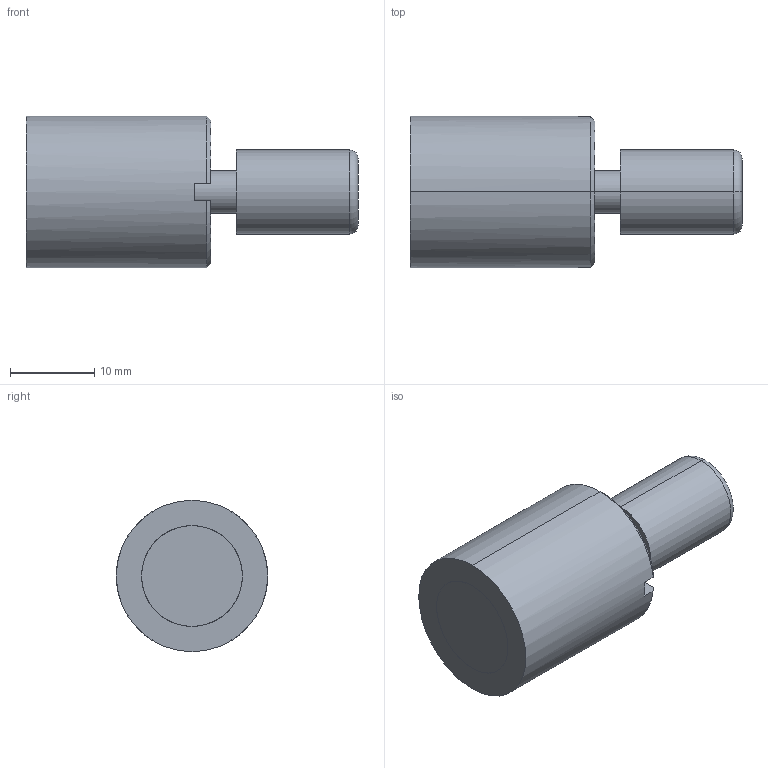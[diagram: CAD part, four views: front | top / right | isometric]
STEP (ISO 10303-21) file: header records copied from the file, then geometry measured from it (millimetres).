
FILE_DESCRIPTION(('CATIA V5 STEP Exchange'),'2;1');
FILE_NAME('C:\Users\Utente\Desktop\IO LAVORO\3D X SITO CF\X SITO\PLASTICA\CF-VPA\CF-VPA18.stp','2021-03-20T16:39:27+00:00',('none'),('none'),'CATIA Version 5 Release 20 GA (IN-10)','CATIA V5 STEP AP203','none');
FILE_SCHEMA(('CONFIG_CONTROL_DESIGN'));
Length unit declared in the file: millimetre
Products named in the file (1): CF-VPA18
Assembly tree (2 placements, depth 2):
  CF-VPA18
    #58
    #769
Bounding box: 39.5 x 18 x 18 mm (x, y, z)
Volume: 6593.3 mm3; surface area: 3291.1 mm2
Topology: 2 solids, 2 shells, 30 faces, 88 edges, 62 vertices
Faces by surface type: plane 12, cone 8, cylinder 8, torus 2
Entity records: 1149 total; most frequent: CARTESIAN_POINT 276, ORIENTED_EDGE 176, DIRECTION 144, EDGE_CURVE 88, AXIS2_PLACEMENT_3D 80, VERTEX_POINT 62, CIRCLE 46, EDGE_LOOP 32
